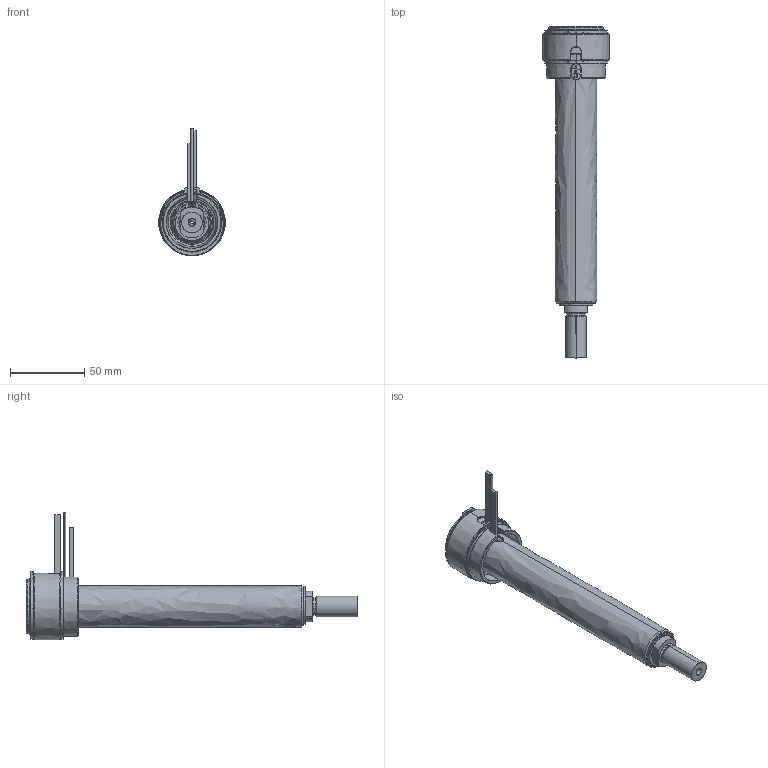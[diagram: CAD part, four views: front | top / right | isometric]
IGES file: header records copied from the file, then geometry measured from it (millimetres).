
Start section: SolidWorks IGES file using analytic representation for surfaces
Global section: file name: C:\Documents and Settings\ws-20\Desktop\TEM\UGBE4504-M-A-P-3 [Ød-2.0 P-25 ØC-09].IGS; native system: SolidWorks 2012; preprocessor: SolidWorks 2012; author: ws-20; date: 120412.153415; units: millimetre
Bounding box: 45 x 224.25 x 86.15 mm (x, y, z)
Surface area: 69045.2 mm2 (no closed solid volume)
Topology: 0 solids, 0 shells, 161 faces, 3059 edges, 3059 vertices
Faces by surface type: revolution 98, bspline 63
